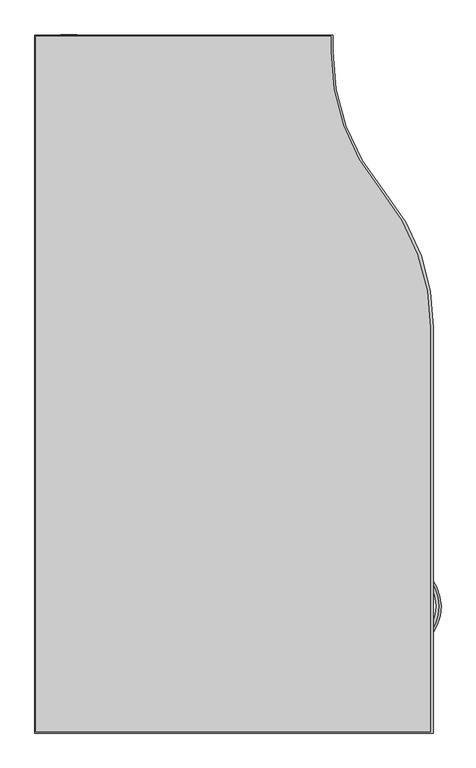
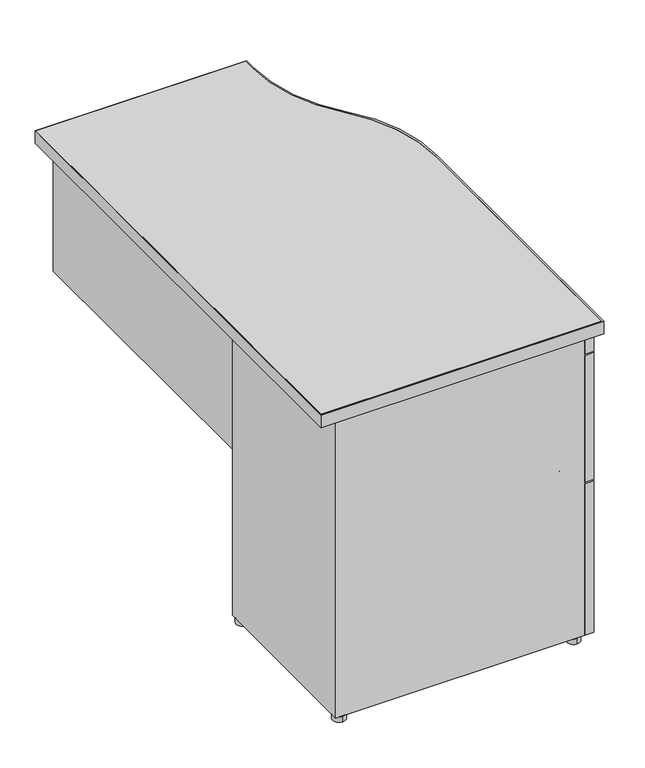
"""IFC4 building model written with IfcOpenShell, lengths in millimetres: furniture geometry, Steelcase - Kick Freestanding - Desk - Single Pedestal Transition Return - Partial Modesty Panel : 18D x 42W - Left - File/File."""

from ifc_helpers import new_model, si_unit, point, frame, frame_2d, origin, origin_with_axes, place, context, project, spatial, polyline, circle_curve, ellipse_curve, trimmed, segment, composite_curve, outline, extrude, source, transform, mapped, element, save
from ifc_brep_helpers import plane_surface, cylinder_surface, revolved_surface, extruded_surface, advanced_brep


def furniture_d3e8c470(model_context):
    return source(origin(), model_context, "Body", "SolidModel", [
        advanced_brep(
        [(2760.5907209, -1469.2132511, 586.4818798), (2760.5907209, -1469.2132511, 569.2783404), (2759.9247042, -1370.0632386, 586.4818798), (2759.9247042, -1370.0632386, 569.2783404)],
        [
            (0, 1, ellipse_curve(frame((2760.5907209, -1469.2132511, 577.8801101), z_axis=(-0.7327226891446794, -0.6805273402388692, 0.0), x_axis=(0.0, 0.0, -1.0)), 8.6017697, 3.6448177)),
            (1, 0, ellipse_curve(frame((2760.5907209, -1469.2132511, 577.8801101), z_axis=(-0.7327226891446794, -0.6805273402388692, 0.0), x_axis=(0.0, 0.0, -1.0)), 8.6017697, 3.6448177)),
            (2, 3, ellipse_curve(frame((2759.9247042, -1370.0632386, 577.8801101), z_axis=(-0.7417987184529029, 0.670622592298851, 0.0), x_axis=(0.0, 0.0, -1.0)), 8.6017697, 3.6448177)),
            (3, 2, ellipse_curve(frame((2759.9247042, -1370.0632386, 577.8801101), z_axis=(-0.7417987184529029, 0.670622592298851, 0.0), x_axis=(0.0, 0.0, -1.0)), 8.6017697, 3.6448177)),
            (3, 1, circle_curve(frame((2714.8305889, -1419.9433908, 569.2783404), z_axis=(0.0, 0.0, -1.0), x_axis=(0.6805273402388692, -0.7327226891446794, 0.0)), 67.2421655)),
            (0, 2, circle_curve(frame((2714.8305889, -1419.9433908, 586.4818798), z_axis=(0.0, 0.0, 1.0), x_axis=(0.6805273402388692, -0.7327226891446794, 0.0)), 67.2421655)),
        ],
        [
            plane_surface(frame((2761.3542952, -1470.0353903, 0.0), z_axis=(-0.7327226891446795, -0.6805273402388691, 0.0), x_axis=(0.0, 0.0, 1.0))),
            plane_surface(frame((2760.6771651, -1369.2309157, 0.0), z_axis=(-0.7417987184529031, 0.6706225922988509, 0.0), x_axis=(0.0, 0.0, 1.0))),
            revolved_surface(trimmed(ellipse_curve(frame((2760.5907209, -1469.2132511, 577.8801101), z_axis=(-0.7327226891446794, -0.6805273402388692, 0.0), x_axis=(0.0, 0.0, -1.0)), 8.6017697, 3.6448177), [point((2760.5907209, -1469.2132511, 586.4818798))], [point((2760.5907209, -1469.2132511, 569.2783404))], True, "CARTESIAN"), (2714.8305889, -1419.9433908, 0.0), (0.0, 0.0, 1.0)),
            revolved_surface(trimmed(ellipse_curve(frame((2760.5907209, -1469.2132511, 577.8801101), z_axis=(-0.7327226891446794, -0.6805273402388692, 0.0), x_axis=(0.0, 0.0, -1.0)), 8.6017697, 3.6448177), [point((2760.5907209, -1469.2132511, 569.2783404))], [point((2760.5907209, -1469.2132511, 586.4818798))], True, "CARTESIAN"), (2714.8305889, -1419.9433908, 0.0), (0.0, 0.0, 1.0)),
        ],
        [
            (0, [[1, 2]]),
            (1, [[3, 4]]),
            (2, [[5, -1, 6, -4]]),
            (3, [[-6, -2, -5, -3]]),
        ],
    ),
        advanced_brep(
        [(2760.5907209, -1469.2132511, 293.5881298), (2760.5907209, -1469.2132511, 276.3845904), (2759.9247042, -1370.0632386, 293.5881298), (2759.9247042, -1370.0632386, 276.3845904)],
        [
            (0, 1, ellipse_curve(frame((2760.5907209, -1469.2132511, 284.9863601), z_axis=(-0.7327226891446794, -0.6805273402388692, 0.0), x_axis=(0.0, 0.0, -1.0)), 8.6017697, 3.6448177)),
            (1, 0, ellipse_curve(frame((2760.5907209, -1469.2132511, 284.9863601), z_axis=(-0.7327226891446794, -0.6805273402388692, 0.0), x_axis=(0.0, 0.0, -1.0)), 8.6017697, 3.6448177)),
            (2, 3, ellipse_curve(frame((2759.9247042, -1370.0632386, 284.9863601), z_axis=(-0.7417987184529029, 0.670622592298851, 0.0), x_axis=(0.0, 0.0, -1.0)), 8.6017697, 3.6448177)),
            (3, 2, ellipse_curve(frame((2759.9247042, -1370.0632386, 284.9863601), z_axis=(-0.7417987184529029, 0.670622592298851, 0.0), x_axis=(0.0, 0.0, -1.0)), 8.6017697, 3.6448177)),
            (3, 1, circle_curve(frame((2714.8305889, -1419.9433908, 276.3845904), z_axis=(0.0, 0.0, -1.0), x_axis=(0.6805273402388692, -0.7327226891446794, 0.0)), 67.2421655)),
            (0, 2, circle_curve(frame((2714.8305889, -1419.9433908, 293.5881298), z_axis=(0.0, 0.0, 1.0), x_axis=(0.6805273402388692, -0.7327226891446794, 0.0)), 67.2421655)),
        ],
        [
            plane_surface(frame((2761.3542952, -1470.0353903, 0.0), z_axis=(-0.7327226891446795, -0.6805273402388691, 0.0), x_axis=(0.0, 0.0, 1.0))),
            plane_surface(frame((2760.6771651, -1369.2309157, 0.0), z_axis=(-0.7417987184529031, 0.6706225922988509, 0.0), x_axis=(0.0, 0.0, 1.0))),
            revolved_surface(trimmed(ellipse_curve(frame((2760.5907209, -1469.2132511, 284.9863601), z_axis=(-0.7327226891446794, -0.6805273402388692, 0.0), x_axis=(0.0, 0.0, -1.0)), 8.6017697, 3.6448177), [point((2760.5907209, -1469.2132511, 293.5881298))], [point((2760.5907209, -1469.2132511, 276.3845904))], True, "CARTESIAN"), (2714.8305889, -1419.9433908, 0.0), (0.0, 0.0, 1.0)),
            revolved_surface(trimmed(ellipse_curve(frame((2760.5907209, -1469.2132511, 284.9863601), z_axis=(-0.7327226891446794, -0.6805273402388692, 0.0), x_axis=(0.0, 0.0, -1.0)), 8.6017697, 3.6448177), [point((2760.5907209, -1469.2132511, 276.3845904))], [point((2760.5907209, -1469.2132511, 293.5881298))], True, "CARTESIAN"), (2714.8305889, -1419.9433908, 0.0), (0.0, 0.0, 1.0)),
        ],
        [
            (0, [[1, 2]]),
            (1, [[3, 4]]),
            (2, [[5, -1, 6, -4]]),
            (3, [[-6, -2, -5, -3]]),
        ],
    ),
        advanced_brep(
        [(2762.8455764, -1276.6380273, 671.1566635), (2762.8455764, -1256.3180273, 671.1566635), (2759.7468248, -1276.6380273, 671.1566635), (2759.7468248, -1256.3180273, 671.1566635)],
        [
            (0, 1, circle_curve(frame((2762.8455764, -1266.4780273, 671.1566635), z_axis=(1.0, 0.0, 0.0), x_axis=(0.0, 1.0, 0.0)), 10.16)),
            (1, 0, circle_curve(frame((2762.8455764, -1266.4780273, 671.1566635), z_axis=(1.0, 0.0, 0.0), x_axis=(0.0, 1.0, 0.0)), 10.16)),
            (2, 3, circle_curve(frame((2759.7468248, -1266.4780273, 671.1566635), z_axis=(-1.0, 0.0, 0.0), x_axis=(0.0, 1.0, 0.0)), 10.16)),
            (3, 2, circle_curve(frame((2759.7468248, -1266.4780273, 671.1566635), z_axis=(-1.0, 0.0, 0.0), x_axis=(0.0, 1.0, 0.0)), 10.16)),
            (0, 2),
            (3, 1),
        ],
        [
            plane_surface(frame((2762.8455764, -1256.3180273, 671.1566635), z_axis=(1.0, 0.0, 0.0), x_axis=(0.0, 0.0, 1.0))),
            plane_surface(frame((2759.7468248, -1256.3180273, 671.1566635), z_axis=(-1.0, 0.0, 0.0), x_axis=(0.0, 0.0, -1.0))),
            cylinder_surface(frame((2759.7468248, -1266.4780273, 671.1566635), z_axis=(1.0, 0.0, 0.0), x_axis=(0.0, 1.0, 0.0)), 10.16),
        ],
        [
            (0, [[1, 2]]),
            (1, [[3, 4]]),
            (2, [[-1, 5, -4, 6]]),
            (2, [[-2, -6, -3, -5]]),
        ],
    ),
        advanced_brep(
        [(2762.8455764, -1467.8140492, 589.4466513), (2762.8455764, -1467.8140492, 566.5866513), (2759.7468248, -1467.8140492, 589.4466513), (2759.7468248, -1467.8140492, 566.5866513)],
        [
            (0, 1, ellipse_curve(frame((2762.8455764, -1467.8140492, 578.0166513), z_axis=(1.0, 0.0, 0.0), x_axis=(0.0, 0.0, -1.0)), 11.43, 8.0054005)),
            (1, 0, ellipse_curve(frame((2762.8455764, -1467.8140492, 578.0166513), z_axis=(1.0, 0.0, 0.0), x_axis=(0.0, 0.0, -1.0)), 11.43, 8.0054005)),
            (2, 3, ellipse_curve(frame((2759.7468248, -1467.8140492, 578.0166513), z_axis=(-1.0, 0.0, 0.0), x_axis=(0.0, 0.0, -1.0)), 11.43, 8.0054005)),
            (3, 2, ellipse_curve(frame((2759.7468248, -1467.8140492, 578.0166513), z_axis=(-1.0, 0.0, 0.0), x_axis=(0.0, 0.0, -1.0)), 11.43, 8.0054005)),
            (0, 2),
            (3, 1),
        ],
        [
            plane_surface(frame((2762.8455764, -1256.3180273, 671.1566635), z_axis=(1.0, 0.0, 0.0), x_axis=(0.0, 0.0, 1.0))),
            plane_surface(frame((2759.7468248, -1256.3180273, 671.1566635), z_axis=(-1.0, 0.0, 0.0), x_axis=(0.0, 0.0, -1.0))),
            extruded_surface(trimmed(ellipse_curve(frame((2755.7590248, -1467.8140492, 578.0166513), z_axis=(1.0, 0.0, 0.0), x_axis=(0.0, 0.0, -1.0)), 11.43, 8.0054005), [point((2755.7590248, -1467.8140492, 589.4466513))], [point((2755.7590248, -1467.8140492, 566.5866513))], True, "CARTESIAN"), (3.098751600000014, 0.0, 0.0), 3.098751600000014),
            extruded_surface(trimmed(ellipse_curve(frame((2755.7590248, -1467.8140492, 578.0166513), z_axis=(1.0, 0.0, 0.0), x_axis=(0.0, 0.0, -1.0)), 11.43, 8.0054005), [point((2755.7590248, -1467.8140492, 566.5866513))], [point((2755.7590248, -1467.8140492, 589.4466513))], True, "CARTESIAN"), (3.098751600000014, 0.0, 0.0), 3.098751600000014),
        ],
        [
            (0, [[1, 2]]),
            (1, [[3, 4]]),
            (2, [[-1, 5, -4, 6]]),
            (3, [[-2, -6, -3, -5]]),
        ],
    ),
        advanced_brep(
        [(2762.8455764, -1370.4852323, 589.4466513), (2762.8455764, -1370.4852323, 566.5866513), (2759.7468248, -1370.4852323, 589.4466513), (2759.7468248, -1370.4852323, 566.5866513)],
        [
            (0, 1, ellipse_curve(frame((2762.8455764, -1370.4852323, 578.0166513), z_axis=(1.0, 0.0, 0.0), x_axis=(0.0, 0.0, -1.0)), 11.43, 8.0054005)),
            (1, 0, ellipse_curve(frame((2762.8455764, -1370.4852323, 578.0166513), z_axis=(1.0, 0.0, 0.0), x_axis=(0.0, 0.0, -1.0)), 11.43, 8.0054005)),
            (2, 3, ellipse_curve(frame((2759.7468248, -1370.4852323, 578.0166513), z_axis=(-1.0, 0.0, 0.0), x_axis=(0.0, 0.0, -1.0)), 11.43, 8.0054005)),
            (3, 2, ellipse_curve(frame((2759.7468248, -1370.4852323, 578.0166513), z_axis=(-1.0, 0.0, 0.0), x_axis=(0.0, 0.0, -1.0)), 11.43, 8.0054005)),
            (0, 2),
            (3, 1),
        ],
        [
            plane_surface(frame((2762.8455764, -1256.3180273, 671.1566635), z_axis=(1.0, 0.0, 0.0), x_axis=(0.0, 0.0, 1.0))),
            plane_surface(frame((2759.7468248, -1256.3180273, 671.1566635), z_axis=(-1.0, 0.0, 0.0), x_axis=(0.0, 0.0, -1.0))),
            extruded_surface(trimmed(ellipse_curve(frame((2755.7590248, -1370.4852323, 578.0166513), z_axis=(1.0, 0.0, 0.0), x_axis=(0.0, 0.0, -1.0)), 11.43, 8.0054005), [point((2755.7590248, -1370.4852323, 589.4466513))], [point((2755.7590248, -1370.4852323, 566.5866513))], True, "CARTESIAN"), (3.098751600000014, 0.0, 0.0), 3.098751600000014),
            extruded_surface(trimmed(ellipse_curve(frame((2755.7590248, -1370.4852323, 578.0166513), z_axis=(1.0, 0.0, 0.0), x_axis=(0.0, 0.0, -1.0)), 11.43, 8.0054005), [point((2755.7590248, -1370.4852323, 566.5866513))], [point((2755.7590248, -1370.4852323, 589.4466513))], True, "CARTESIAN"), (3.098751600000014, 0.0, 0.0), 3.098751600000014),
        ],
        [
            (0, [[1, 2]]),
            (1, [[3, 4]]),
            (2, [[-1, 5, -4, 6]]),
            (3, [[-2, -6, -3, -5]]),
        ],
    ),
        advanced_brep(
        [(2762.8455764, -1466.5790775, 296.5864566), (2762.8455764, -1466.5790775, 273.7264566), (2759.7468248, -1466.5790775, 296.5864566), (2759.7468248, -1466.5790775, 273.7264566)],
        [
            (0, 1, ellipse_curve(frame((2762.8455764, -1466.5790775, 285.1564566), z_axis=(1.0, 0.0, 0.0), x_axis=(0.0, 0.0, -1.0)), 11.43, 8.0054005)),
            (1, 0, ellipse_curve(frame((2762.8455764, -1466.5790775, 285.1564566), z_axis=(1.0, 0.0, 0.0), x_axis=(0.0, 0.0, -1.0)), 11.43, 8.0054005)),
            (2, 3, ellipse_curve(frame((2759.7468248, -1466.5790775, 285.1564566), z_axis=(-1.0, 0.0, 0.0), x_axis=(0.0, 0.0, -1.0)), 11.43, 8.0054005)),
            (3, 2, ellipse_curve(frame((2759.7468248, -1466.5790775, 285.1564566), z_axis=(-1.0, 0.0, 0.0), x_axis=(0.0, 0.0, -1.0)), 11.43, 8.0054005)),
            (0, 2),
            (3, 1),
        ],
        [
            plane_surface(frame((2762.8455764, -1256.3180273, 671.1566635), z_axis=(1.0, 0.0, 0.0), x_axis=(0.0, 0.0, 1.0))),
            plane_surface(frame((2759.7468248, -1256.3180273, 671.1566635), z_axis=(-1.0, 0.0, 0.0), x_axis=(0.0, 0.0, -1.0))),
            extruded_surface(trimmed(ellipse_curve(frame((2755.7590248, -1466.5790775, 285.1564566), z_axis=(1.0, 0.0, 0.0), x_axis=(0.0, 0.0, -1.0)), 11.43, 8.0054005), [point((2755.7590248, -1466.5790775, 296.5864566))], [point((2755.7590248, -1466.5790775, 273.7264566))], True, "CARTESIAN"), (3.098751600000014, 0.0, 0.0), 3.098751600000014),
            extruded_surface(trimmed(ellipse_curve(frame((2755.7590248, -1466.5790775, 285.1564566), z_axis=(1.0, 0.0, 0.0), x_axis=(0.0, 0.0, -1.0)), 11.43, 8.0054005), [point((2755.7590248, -1466.5790775, 273.7264566))], [point((2755.7590248, -1466.5790775, 296.5864566))], True, "CARTESIAN"), (3.098751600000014, 0.0, 0.0), 3.098751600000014),
        ],
        [
            (0, [[1, 2]]),
            (1, [[3, 4]]),
            (2, [[-1, 5, -4, 6]]),
            (3, [[-2, -6, -3, -5]]),
        ],
    ),
        advanced_brep(
        [(2762.8455764, -1369.2502606, 296.5864566), (2762.8455764, -1369.2502606, 273.7264566), (2759.7468248, -1369.2502606, 296.5864566), (2759.7468248, -1369.2502606, 273.7264566)],
        [
            (0, 1, ellipse_curve(frame((2762.8455764, -1369.2502606, 285.1564566), z_axis=(1.0, 0.0, 0.0), x_axis=(0.0, 0.0, -1.0)), 11.43, 8.0054005)),
            (1, 0, ellipse_curve(frame((2762.8455764, -1369.2502606, 285.1564566), z_axis=(1.0, 0.0, 0.0), x_axis=(0.0, 0.0, -1.0)), 11.43, 8.0054005)),
            (2, 3, ellipse_curve(frame((2759.7468248, -1369.2502606, 285.1564566), z_axis=(-1.0, 0.0, 0.0), x_axis=(0.0, 0.0, -1.0)), 11.43, 8.0054005)),
            (3, 2, ellipse_curve(frame((2759.7468248, -1369.2502606, 285.1564566), z_axis=(-1.0, 0.0, 0.0), x_axis=(0.0, 0.0, -1.0)), 11.43, 8.0054005)),
            (0, 2),
            (3, 1),
        ],
        [
            plane_surface(frame((2762.8455764, -1256.3180273, 671.1566635), z_axis=(1.0, 0.0, 0.0), x_axis=(0.0, 0.0, 1.0))),
            plane_surface(frame((2759.7468248, -1256.3180273, 671.1566635), z_axis=(-1.0, 0.0, 0.0), x_axis=(0.0, 0.0, -1.0))),
            extruded_surface(trimmed(ellipse_curve(frame((2755.7590248, -1369.2502606, 285.1564566), z_axis=(1.0, 0.0, 0.0), x_axis=(0.0, 0.0, -1.0)), 11.43, 8.0054005), [point((2755.7590248, -1369.2502606, 296.5864566))], [point((2755.7590248, -1369.2502606, 273.7264566))], True, "CARTESIAN"), (3.098751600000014, 0.0, 0.0), 3.098751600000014),
            extruded_surface(trimmed(ellipse_curve(frame((2755.7590248, -1369.2502606, 285.1564566), z_axis=(1.0, 0.0, 0.0), x_axis=(0.0, 0.0, -1.0)), 11.43, 8.0054005), [point((2755.7590248, -1369.2502606, 273.7264566))], [point((2755.7590248, -1369.2502606, 296.5864566))], True, "CARTESIAN"), (3.098751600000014, 0.0, 0.0), 3.098751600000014),
        ],
        [
            (0, [[1, 2]]),
            (1, [[3, 4]]),
            (2, [[-1, 5, -4, 6]]),
            (3, [[-2, -6, -3, -5]]),
        ],
    ),
        extrude(outline(polyline([(2759.7468248, -1215.3776054), (2759.7468248, -1600.3145982), (2739.8077764, -1600.3145982), (2739.8077764, -1215.3776054), (2759.7468248, -1215.3776054)])), frame((0.0, 0.0, 360.6545895), z_axis=(0.0, 0.0, 1.0), x_axis=(1.0, 0.0, 0.0)), (0.0, 0.0, 1.0), 288.9250242),
        extrude(outline(polyline([(2759.7468248, -1215.3776054), (2759.7468248, -1600.3145982), (2739.8077764, -1600.3145982), (2739.8077764, -1215.3776054), (2759.7468248, -1215.3776054)])), frame((0.0, 0.0, 12.7), z_axis=(0.0, 0.0, 1.0), x_axis=(1.0, 0.0, 0.0)), (0.0, 0.0, 1.0), 344.7796016),
        extrude(outline(polyline([(2759.7468248, -1215.3776054), (2759.7468248, -1600.3145982), (2739.8077764, -1600.3145982), (2739.8077764, -1215.3776054), (2759.7468248, -1215.3776054)])), frame((0.0, 0.0, 652.7545653), z_axis=(0.0, 0.0, 1.0), x_axis=(1.0, 0.0, 0.0)), (0.0, 0.0, 1.0), 40.6400339),
        extrude(outline(composite_curve([segment(trimmed(circle_curve(frame_2d((2217.7074425, -1587.7382652)), 13.97), [point((2217.7074425, -1601.7082652))], [point((2217.7074425, -1573.7682652))], False, "CARTESIAN"), True, "CONTINUOUS"), segment(trimmed(circle_curve(frame_2d((2217.7074425, -1587.7382652)), 13.97), [point((2217.7074425, -1573.7682652))], [point((2217.7074425, -1601.7082652))], False, "CARTESIAN"), True, "CONTINUOUS")], self_intersect=False)), origin_with_axes(), (0.0, 0.0, 1.0), 12.446),
        extrude(outline(composite_curve([segment(trimmed(circle_curve(frame_2d((2722.6594425, -1587.7382652)), 13.97), [point((2722.6594425, -1601.7082652))], [point((2722.6594425, -1573.7682652))], False, "CARTESIAN"), True, "CONTINUOUS"), segment(trimmed(circle_curve(frame_2d((2722.6594425, -1587.7382652)), 13.97), [point((2722.6594425, -1573.7682652))], [point((2722.6594425, -1601.7082652))], False, "CARTESIAN"), True, "CONTINUOUS")], self_intersect=False)), origin_with_axes(), (0.0, 0.0, 1.0), 12.446),
        extrude(outline(composite_curve([segment(trimmed(circle_curve(frame_2d((2217.7074425, -1228.0776054)), 13.97), [point((2217.7074425, -1242.0476054))], [point((2217.7074425, -1214.1076054))], False, "CARTESIAN"), True, "CONTINUOUS"), segment(trimmed(circle_curve(frame_2d((2217.7074425, -1228.0776054)), 13.97), [point((2217.7074425, -1214.1076054))], [point((2217.7074425, -1242.0476054))], False, "CARTESIAN"), True, "CONTINUOUS")], self_intersect=False)), origin_with_axes(), (0.0, 0.0, 1.0), 12.446),
        extrude(outline(composite_curve([segment(trimmed(circle_curve(frame_2d((2723.4604252, -1228.0776054)), 12.7), [point((2723.4604252, -1240.7776054))], [point((2723.4604252, -1215.3776054))], False, "CARTESIAN"), True, "CONTINUOUS"), segment(trimmed(circle_curve(frame_2d((2723.4604252, -1228.0776054)), 12.7), [point((2723.4604252, -1215.3776054))], [point((2723.4604252, -1240.7776054))], False, "CARTESIAN"), True, "CONTINUOUS")], self_intersect=False)), origin_with_axes(), (0.0, 0.0, 1.0), 12.446),
        extrude(outline(polyline([(2203.2328248, -1215.3776054), (2739.8077764, -1215.3776054), (2739.8077764, -1600.3145982), (2203.2328248, -1600.3145982), (2203.2328248, -1215.3776054)]), holes=[polyline([(2228.6328241, -1235.2149846), (2228.6328241, -1580.4771996), (2719.2338142, -1580.4771996), (2719.2338142, -1235.2149846), (2228.6328241, -1235.2149846)])]), frame((0.0, 0.0, 12.446), z_axis=(0.0, 0.0, 1.0), x_axis=(1.0, 0.0, 0.0)), (0.0, 0.0, 1.0), 682.498),
        extrude(outline(composite_curve([segment(polyline([(2616.8176592, -547.8051152), (2616.8176592, -572.1320079)]), True, "CONTINUOUS"), segment(trimmed(circle_curve(frame_2d((2941.6463505, -574.5942763)), 324.8380233), [point((2616.8176592, -572.1320079))], [point((2692.5587903, -783.1011797))], True, "CARTESIAN"), True, "CONTINUOUS"), segment(trimmed(circle_curve(frame_2d((2440.4841513, -994.1085152)), 328.7335079), [point((2692.5587903, -783.1011797))], [point((2769.2176592, -994.1085152))], False, "CARTESIAN"), True, "CONTINUOUS"), segment(polyline([(2769.2176592, -994.1085152), (2769.2176592, -1611.8619332), (2164.8500425, -1611.8619332), (2164.8500425, -547.8051152), (2616.8176592, -547.8051152)]), True, "CONTINUOUS")], self_intersect=False)), frame((0.0, 0.0, 694.944), z_axis=(0.0, 0.0, 1.0), x_axis=(1.0, 0.0, 0.0)), (0.0, 0.0, 1.0), 28.956),
        extrude(outline(composite_curve([segment(polyline([(2619.7894255, -546.8145152), (2619.7894255, -571.0836731)]), True, "CONTINUOUS"), segment(trimmed(circle_curve(frame_2d((2951.3460478, -571.0836731)), 331.5566223), [point((2619.7894255, -571.0836731))], [point((2699.261298, -786.4509703))], True, "CARTESIAN"), True, "CONTINUOUS"), segment(trimmed(circle_curve(frame_2d((2463.6949436, -987.7058619)), 309.8306613), [point((2699.261298, -786.4509703))], [point((2773.4594425, -994.1085152))], False, "CARTESIAN"), True, "CONTINUOUS"), segment(polyline([(2773.4594425, -994.1085152), (2773.4594425, -1613.6145152), (2163.8594425, -1613.6145152), (2163.8594425, -546.8145152), (2619.7894255, -546.8145152)]), True, "CONTINUOUS")], self_intersect=False), holes=[composite_curve([segment(polyline([(2616.8176592, -547.8051152), (2164.8500425, -547.8051152), (2164.8500425, -1611.8619332), (2769.2176592, -1611.8619332), (2769.2176592, -994.1085152)]), True, "CONTINUOUS"), segment(trimmed(circle_curve(frame_2d((2440.4841513, -994.1085152)), 328.7335079), [point((2769.2176592, -994.1085152))], [point((2692.5587903, -783.1011797))], True, "CARTESIAN"), True, "CONTINUOUS"), segment(trimmed(circle_curve(frame_2d((2941.6463505, -574.5942763)), 324.8380233), [point((2692.5587903, -783.1011797))], [point((2616.8176592, -572.1320079))], False, "CARTESIAN"), True, "CONTINUOUS"), segment(polyline([(2616.8176592, -572.1320079), (2616.8176592, -547.8051152)]), True, "CONTINUOUS")], self_intersect=False)]), frame((0.0, 0.0, 694.944), z_axis=(0.0, 0.0, 1.0), x_axis=(1.0, 0.0, 0.0)), (0.0, 0.0, 1.0), 28.956),
        extrude(outline(polyline([(2228.6328241, -546.0525152), (2228.6328241, -1215.3776054), (2203.2328248, -1215.3776054), (2203.2328248, -546.0525152), (2228.6328241, -546.0525152)])), frame((0.0, 0.0, 390.144), z_axis=(0.0, 0.0, 1.0), x_axis=(1.0, 0.0, 0.0)), (0.0, 0.0, 1.0), 304.8),
    ])


if __name__ == "__main__":
    model = new_model("IFC4")
    model_context = context("Model", 3, world=origin())
    ifc_project = project(units=[si_unit("LENGTHUNIT", "METRE", prefix="MILLI")], contexts=[model_context])
    site = spatial("IfcSite", under=ifc_project)
    building = spatial("IfcBuilding", under=site)
    placement = place(None, origin())
    furniture_shape = furniture_d3e8c470(model_context)
    element("IfcFurniture", 1, ObjectType="Steelcase - Kick Freestanding - Desk - Single Pedestal Transition Return - Partial Modesty Panel : 18D x 42W - Left - File/File", at=placement, inside=building, context=model_context, shape_type="MappedRepresentation", body=[
        mapped(furniture_shape, transform((0.0, 0.0, 0.0), x_axis=(1.0, 0.0, 0.0), y_axis=(0.0, 1.0, 0.0), z_axis=(0.0, 0.0, 1.0))),
    ])
    save(model, "model.ifc")
